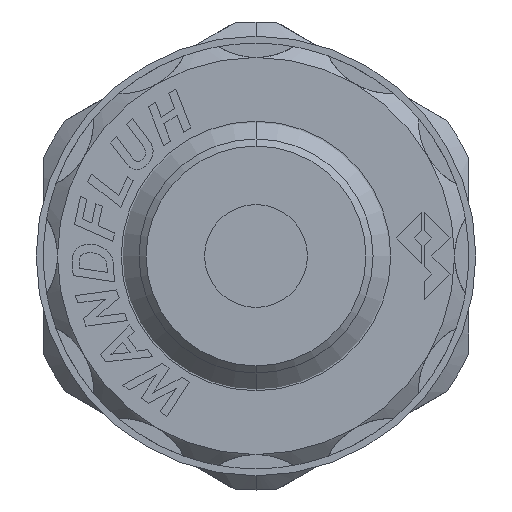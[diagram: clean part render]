
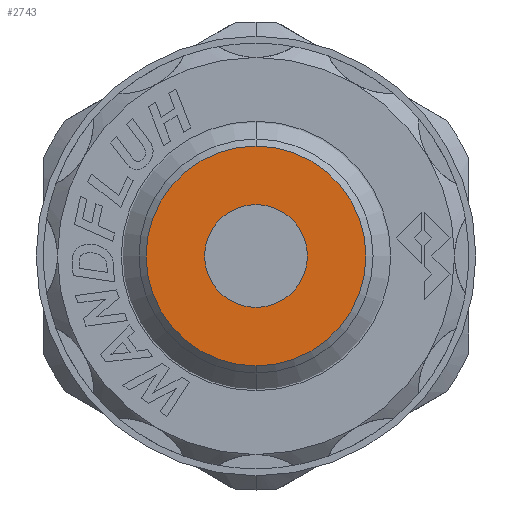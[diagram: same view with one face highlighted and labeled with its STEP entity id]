
A CAD part, left-side view. The second image highlights one B-rep face of the part: STEP entity #2743.
In plain terms, the highlighted planar face has unit normal (-1, 0, 0).
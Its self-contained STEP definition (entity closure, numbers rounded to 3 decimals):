
#654 = EDGE_CURVE ( 'NONE', #7549, #7402, #4871, .T. ) ;
#722 = EDGE_CURVE ( 'NONE', #7565, #7562, #4927, .T. ) ;
#1048 = EDGE_CURVE ( 'NONE', #7562, #7565, #4805, .T. ) ;
#1433 = EDGE_CURVE ( 'NONE', #7402, #7549, #4536, .T. ) ;
#1774 = DIRECTION ( 'NONE',  ( 0., 0., -1. ) ) ;
#1777 = CARTESIAN_POINT ( 'NONE',  ( -70.9, 0., 0. ) ) ;
#1844 = DIRECTION ( 'NONE',  ( -1., 0., 0. ) ) ;
#2743 = ADVANCED_FACE ( 'NONE', ( #9748, #9749 ), #17553, .T. ) ;
#4536 = CIRCLE ( 'NONE', #17907, 3.625 ) ;
#4805 = CIRCLE ( 'NONE', #9352, 7.75 ) ;
#4871 = CIRCLE ( 'NONE', #9408, 3.625 ) ;
#4927 = CIRCLE ( 'NONE', #9573, 7.75 ) ;
#5030 = CARTESIAN_POINT ( 'NONE',  ( -70.9, 0., 0. ) ) ;
#5031 = DIRECTION ( 'NONE',  ( -1., 0., 0. ) ) ;
#5032 = DIRECTION ( 'NONE',  ( 0., 0., -1. ) ) ;
#6183 = AXIS2_PLACEMENT_3D ( 'NONE', #17530, #17529, #17527 ) ;
#7402 = VERTEX_POINT ( 'NONE', #12151 ) ;
#7549 = VERTEX_POINT ( 'NONE', #12297 ) ;
#7562 = VERTEX_POINT ( 'NONE', #12310 ) ;
#7565 = VERTEX_POINT ( 'NONE', #12313 ) ;
#9352 = AXIS2_PLACEMENT_3D ( 'NONE', #5030, #5031, #5032 ) ;
#9408 = AXIS2_PLACEMENT_3D ( 'NONE', #13439, #13657, #13628 ) ;
#9573 = AXIS2_PLACEMENT_3D ( 'NONE', #17308, #17394, #17307 ) ;
#9748 = FACE_OUTER_BOUND ( 'NONE', #16420, .T. ) ;
#9749 = FACE_BOUND ( 'NONE', #16382, .T. ) ;
#12151 = CARTESIAN_POINT ( 'NONE',  ( -70.9, 0., 3.625 ) ) ;
#12297 = CARTESIAN_POINT ( 'NONE',  ( -70.9, 0., -3.625 ) ) ;
#12310 = CARTESIAN_POINT ( 'NONE',  ( -70.9, 0., 7.75 ) ) ;
#12313 = CARTESIAN_POINT ( 'NONE',  ( -70.9, 0., -7.75 ) ) ;
#13439 = CARTESIAN_POINT ( 'NONE',  ( -70.9, 0., 0. ) ) ;
#13628 = DIRECTION ( 'NONE',  ( 0., 0., -1. ) ) ;
#13657 = DIRECTION ( 'NONE',  ( -1., 0., 0. ) ) ;
#15145 = ORIENTED_EDGE ( 'NONE', *, *, #1048, .T. ) ;
#15147 = ORIENTED_EDGE ( 'NONE', *, *, #654, .F. ) ;
#15337 = ORIENTED_EDGE ( 'NONE', *, *, #1433, .F. ) ;
#15338 = ORIENTED_EDGE ( 'NONE', *, *, #722, .T. ) ;
#16382 = EDGE_LOOP ( 'NONE', ( #15147, #15337 ) ) ;
#16420 = EDGE_LOOP ( 'NONE', ( #15145, #15338 ) ) ;
#17307 = DIRECTION ( 'NONE',  ( 0., 0., -1. ) ) ;
#17308 = CARTESIAN_POINT ( 'NONE',  ( -70.9, 0., 0. ) ) ;
#17394 = DIRECTION ( 'NONE',  ( -1., 0., 0. ) ) ;
#17527 = DIRECTION ( 'NONE',  ( 0., 0., -1. ) ) ;
#17529 = DIRECTION ( 'NONE',  ( -1., 0., 0. ) ) ;
#17530 = CARTESIAN_POINT ( 'NONE',  ( -70.9, -3.625, 0. ) ) ;
#17553 = PLANE ( 'NONE',  #6183 ) ;
#17907 = AXIS2_PLACEMENT_3D ( 'NONE', #1777, #1844, #1774 ) ;
